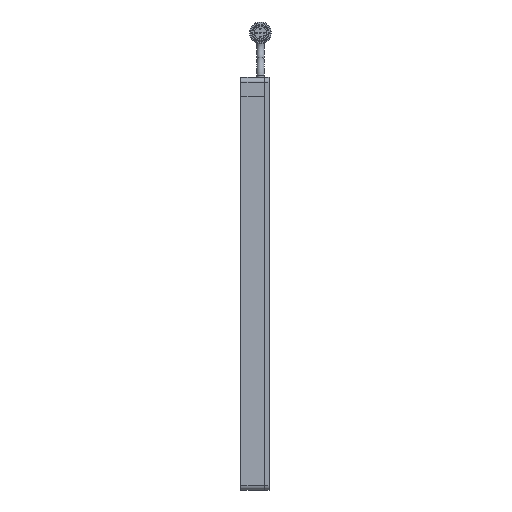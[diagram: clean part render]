
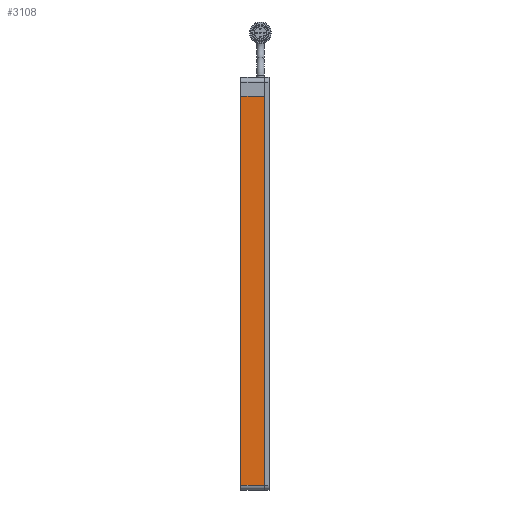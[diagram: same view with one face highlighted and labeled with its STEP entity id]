
A CAD part, left-side view. The second image highlights one B-rep face of the part: STEP entity #3108.
In plain terms, the highlighted planar face has unit normal (-1, 0, 0) as drawn and (0, 0, -1) by its records, which use the part's own axes.
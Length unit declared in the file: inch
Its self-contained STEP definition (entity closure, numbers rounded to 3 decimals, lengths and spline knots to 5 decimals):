
#316 = ORIENTED_EDGE ( 'NONE', *, *, #13265, .T. ) ;
#463 = LINE ( 'NONE', #10286, #1171 ) ;
#1171 = VECTOR ( 'NONE', #7023, 39.37008 ) ;
#1205 = CARTESIAN_POINT ( 'NONE',  ( -5., 0.3125, -0.25 ) ) ;
#1454 = CARTESIAN_POINT ( 'NONE',  ( -5., -0.3125, -0.25 ) ) ;
#2934 = VERTEX_POINT ( 'NONE', #10129 ) ;
#3108 = ADVANCED_FACE ( 'NONE', ( #4662 ), #5489, .F. ) ;
#3894 = VECTOR ( 'NONE', #13636, 39.37008 ) ;
#4186 = LINE ( 'NONE', #6361, #10820 ) ;
#4662 = FACE_OUTER_BOUND ( 'NONE', #4680, .T. ) ;
#4680 = EDGE_LOOP ( 'NONE', ( #13188, #5458, #316, #10688 ) ) ;
#5068 = DIRECTION ( 'NONE',  ( 0., 1., 0. ) ) ;
#5458 = ORIENTED_EDGE ( 'NONE', *, *, #13773, .T. ) ;
#5489 = PLANE ( 'NONE',  #6803 ) ;
#5521 = EDGE_CURVE ( 'NONE', #2934, #11748, #6448, .T. ) ;
#6036 = CARTESIAN_POINT ( 'NONE',  ( -5.5, 0.3125, -0.25 ) ) ;
#6361 = CARTESIAN_POINT ( 'NONE',  ( -5., -0.3125, -0.25 ) ) ;
#6440 = CARTESIAN_POINT ( 'NONE',  ( 5.375, -0.3125, -0.25 ) ) ;
#6448 = LINE ( 'NONE', #6036, #8937 ) ;
#6703 = CARTESIAN_POINT ( 'NONE',  ( -5.5, 0.3125, -0.25 ) ) ;
#6803 = AXIS2_PLACEMENT_3D ( 'NONE', #6703, #8703, #13009 ) ;
#6822 = EDGE_CURVE ( 'NONE', #8164, #11748, #4186, .T. ) ;
#7023 = DIRECTION ( 'NONE',  ( -1., 0., 0. ) ) ;
#8164 = VERTEX_POINT ( 'NONE', #1454 ) ;
#8703 = DIRECTION ( 'NONE',  ( 0., 0., 1. ) ) ;
#8937 = VECTOR ( 'NONE', #10520, 39.37008 ) ;
#10129 = CARTESIAN_POINT ( 'NONE',  ( 5.375, 0.3125, -0.25 ) ) ;
#10286 = CARTESIAN_POINT ( 'NONE',  ( -5.5, -0.3125, -0.25 ) ) ;
#10397 = LINE ( 'NONE', #10543, #3894 ) ;
#10520 = DIRECTION ( 'NONE',  ( -1., 0., 0. ) ) ;
#10543 = CARTESIAN_POINT ( 'NONE',  ( 5.375, 0.3125, -0.25 ) ) ;
#10688 = ORIENTED_EDGE ( 'NONE', *, *, #6822, .T. ) ;
#10820 = VECTOR ( 'NONE', #5068, 39.37008 ) ;
#11748 = VERTEX_POINT ( 'NONE', #1205 ) ;
#13009 = DIRECTION ( 'NONE',  ( 1., 0., 0. ) ) ;
#13188 = ORIENTED_EDGE ( 'NONE', *, *, #5521, .F. ) ;
#13265 = EDGE_CURVE ( 'NONE', #13333, #8164, #463, .T. ) ;
#13333 = VERTEX_POINT ( 'NONE', #6440 ) ;
#13636 = DIRECTION ( 'NONE',  ( 0., -1., 0. ) ) ;
#13773 = EDGE_CURVE ( 'NONE', #2934, #13333, #10397, .T. ) ;
